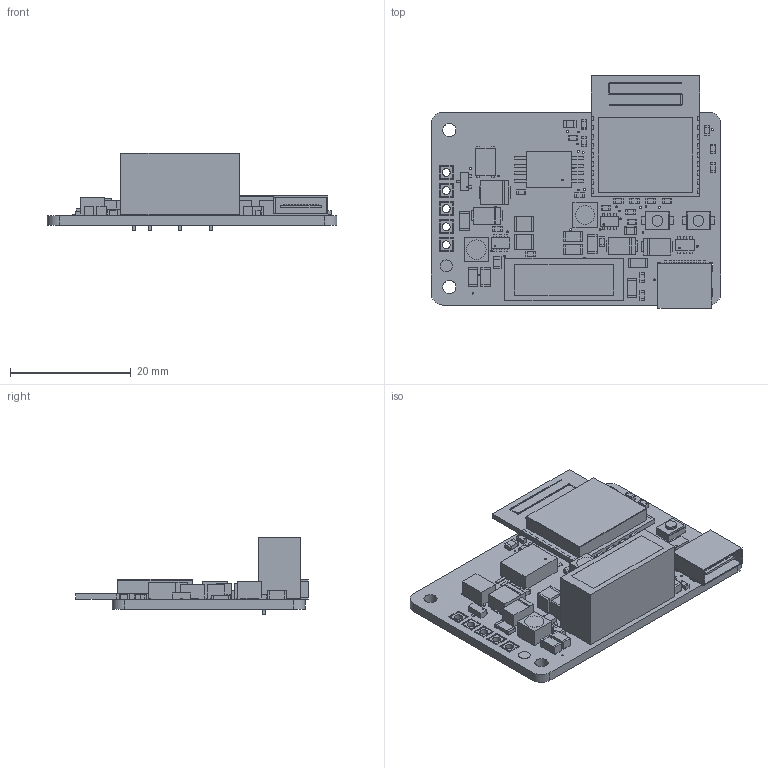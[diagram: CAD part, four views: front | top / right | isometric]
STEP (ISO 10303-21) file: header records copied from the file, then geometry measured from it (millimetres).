
FILE_DESCRIPTION(('FreeCAD Model'),'2;1');
FILE_NAME('Open CASCADE Shape Model','2026-09-23T12:07:03',('FreeCAD'),( 'FreeCAD'),'Open CASCADE STEP processor 7.8','FreeCAD','Unknown');
FILE_SCHEMA(('AUTOMOTIVE_DESIGN { 1 0 10303 214 1 1 1 1 }'));
Length unit declared in the file: millimetre
Products named in the file (1): Open CASCADE STEP translator 7.8 53
Bounding box: 48 x 38.48 x 12.83 mm (x, y, z)
Volume: 5270.7 mm3; surface area: 8541 mm2
Topology: 265 solids, 265 shells, 1944 faces, 4250 edges, 2836 vertices
Faces by surface type: plane 1878, cylinder 66
Full cylindrical faces by diameter (mm): 0.3 x41, 0.6 x2, 1 x4, 1.3 x5, 2.2 x2
Entity records: 51892 total; most frequent: CARTESIAN_POINT 9031, ORIENTED_EDGE 8500, DIRECTION 8280, EDGE_CURVE 4250, LINE 4110, VECTOR 4110, VERTEX_POINT 2836, AXIS2_PLACEMENT_3D 2085
